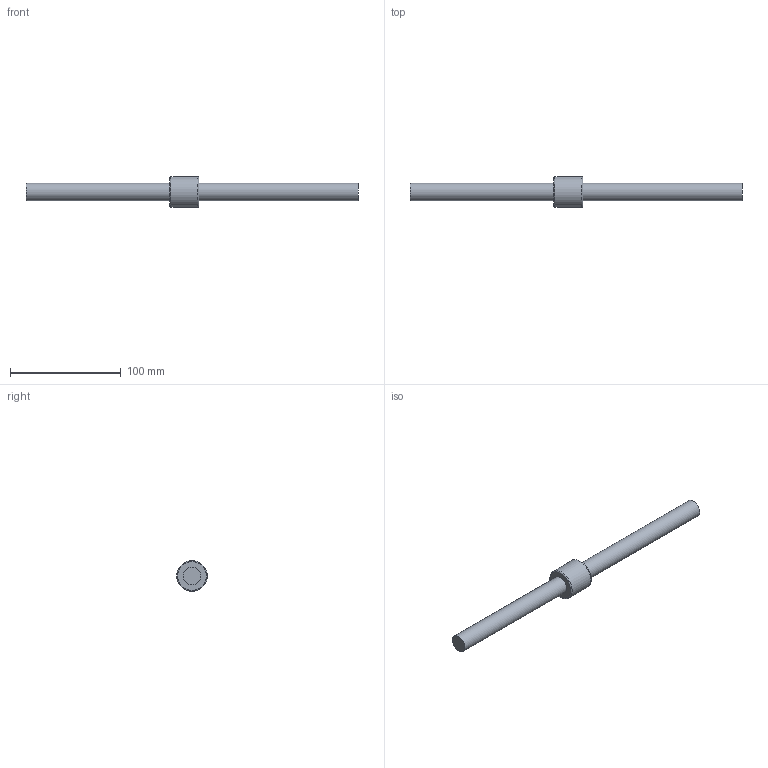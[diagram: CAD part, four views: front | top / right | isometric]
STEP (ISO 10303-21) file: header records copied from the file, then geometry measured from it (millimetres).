
FILE_DESCRIPTION((''),'2;1');
FILE_NAME('D:\製品 (図面)\カタログ用3D\ネジ関連\STEP形式\TMS\TMS16.stp','2010-06-02T15:31:34',('Tsuchiya'),(''),'Autodesk Inventor 10','Autodesk Inventor 10','');
FILE_SCHEMA(('AUTOMOTIVE_DESIGN { 1 0 10303 214 1 1 1 1 }'));
Length unit declared in the file: millimetre
Products named in the file (3): TMS16; TMS161; TMS162
Assembly tree (2 placements, depth 2):
  TMS16
    TMS161
    TMS162
Bounding box: 300 x 28 x 28 mm (x, y, z)
Volume: 71063.4 mm3; surface area: 19828.7 mm2
Topology: 2 solids, 2 shells, 9 faces, 13 edges, 8 vertices
Faces by surface type: plane 4, cylinder 3, torus 2
Full cylindrical faces by diameter (mm): 16 x2, 28 x1
Entity records: 254 total; most frequent: DIRECTION 44, CARTESIAN_POINT 30, AXIS2_PLACEMENT_3D 22, ORIENTED_EDGE 16, EDGE_LOOP 16, FACE_OUTER_BOUND 9, ADVANCED_FACE 9, VERTEX_POINT 8
